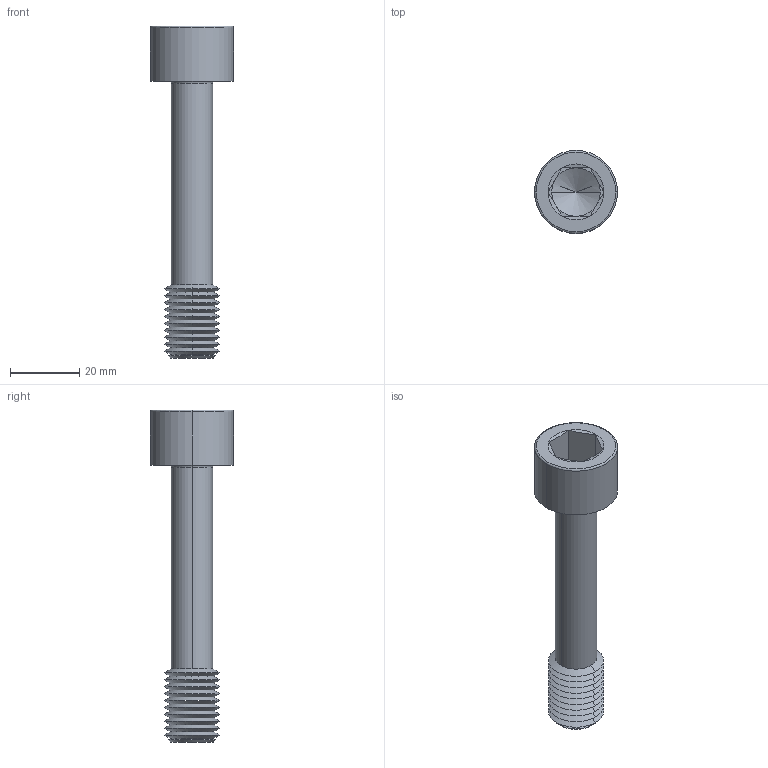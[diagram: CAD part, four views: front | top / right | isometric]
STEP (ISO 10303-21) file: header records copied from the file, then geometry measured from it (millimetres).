
FILE_DESCRIPTION (( 'STEP AP203' ), '1' );
FILE_NAME ('P0154.160-080-BL.step', '2024-06-17T11:39:18', ( '' ), ( '' ), 'SwSTEP 2.0', 'SolidWorks 2019', '' );
FILE_SCHEMA (( 'CONFIG_CONTROL_DESIGN' ));
Length unit declared in the file: millimetre
Products named in the file (1): P0154.160-080-BL
Bounding box: 24 x 24 x 96 mm (x, y, z)
Volume: 14672 mm3; surface area: 6883.3 mm2
Topology: 1 solids, 1 shells, 75 faces, 152 edges, 79 vertices
Faces by surface type: cone 52, plane 15, torus 4, cylinder 4
Entity records: 1991 total; most frequent: DIRECTION 372, CARTESIAN_POINT 335, ORIENTED_EDGE 300, AXIS2_PLACEMENT_3D 152, EDGE_CURVE 150, VERTEX_POINT 79, EDGE_LOOP 77, CIRCLE 76
